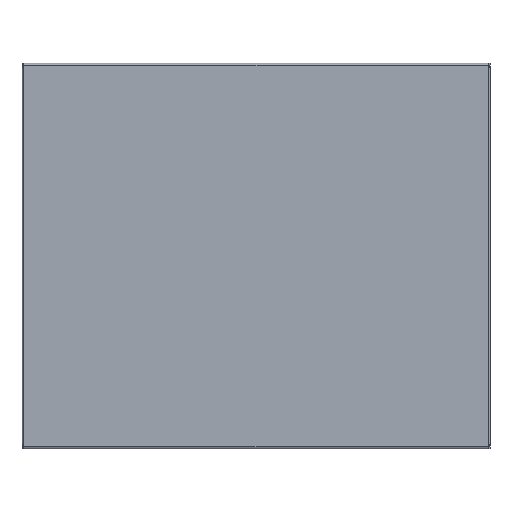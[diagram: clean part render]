
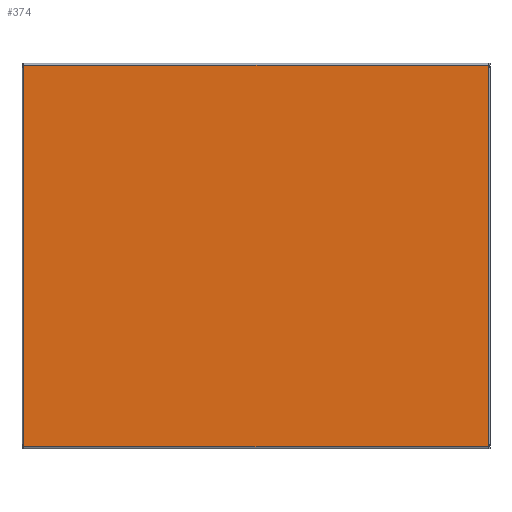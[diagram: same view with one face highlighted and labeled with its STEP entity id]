
A CAD part, front view. The second image highlights one B-rep face of the part: STEP entity #374.
In plain terms, the highlighted planar face has unit normal (0, -1, 0) as drawn and (0, 0, -1) by its records, which use the part's own axes.
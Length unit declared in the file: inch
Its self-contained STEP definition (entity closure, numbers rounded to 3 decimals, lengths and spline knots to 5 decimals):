
#303=CARTESIAN_POINT('',(-7.,-8.5,0.0));
#304=DIRECTION('',(0.0,0.0,1.0));
#305=DIRECTION('',(1.0,0.0,0.0));
#306=AXIS2_PLACEMENT_3D('',#303,#304,#305);
#307=PLANE('',#306);
#308=CARTESIAN_POINT('',(6.928,8.428,0.0));
#309=VERTEX_POINT('',#308);
#310=CARTESIAN_POINT('',(6.928,-8.428,0.0));
#311=VERTEX_POINT('',#310);
#312=CARTESIAN_POINT('',(6.928,8.428,0.0));
#313=DIRECTION('',(0.0,-1.0,0.0));
#314=VECTOR('',#313,16.856);
#315=LINE('',#312,#314);
#316=EDGE_CURVE('',#309,#311,#315,.T.);
#317=ORIENTED_EDGE('',*,*,#316,.T.);
#318=CARTESIAN_POINT('',(6.856,-8.428,0.0));
#319=VERTEX_POINT('',#318);
#320=CARTESIAN_POINT('',(6.928,-8.428,0.0));
#321=DIRECTION('',(-1.0,0.0,0.0));
#322=VECTOR('',#321,0.072);
#323=LINE('',#320,#322);
#324=EDGE_CURVE('',#311,#319,#323,.T.);
#325=ORIENTED_EDGE('',*,*,#324,.T.);
#326=CARTESIAN_POINT('',(-6.856,-8.428,0.0));
#327=VERTEX_POINT('',#326);
#328=CARTESIAN_POINT('',(6.856,-8.428,0.0));
#329=DIRECTION('',(-1.0,0.0,0.0));
#330=VECTOR('',#329,13.712);
#331=LINE('',#328,#330);
#332=EDGE_CURVE('',#319,#327,#331,.T.);
#333=ORIENTED_EDGE('',*,*,#332,.T.);
#334=CARTESIAN_POINT('',(-6.928,-8.428,0.0));
#335=VERTEX_POINT('',#334);
#336=CARTESIAN_POINT('',(-6.856,-8.428,0.0));
#337=DIRECTION('',(-1.0,0.0,0.0));
#338=VECTOR('',#337,0.072);
#339=LINE('',#336,#338);
#340=EDGE_CURVE('',#327,#335,#339,.T.);
#341=ORIENTED_EDGE('',*,*,#340,.T.);
#342=CARTESIAN_POINT('',(-6.928,8.428,0.0));
#343=VERTEX_POINT('',#342);
#344=CARTESIAN_POINT('',(-6.928,-8.428,0.0));
#345=DIRECTION('',(0.0,1.0,0.0));
#346=VECTOR('',#345,16.856);
#347=LINE('',#344,#346);
#348=EDGE_CURVE('',#335,#343,#347,.T.);
#349=ORIENTED_EDGE('',*,*,#348,.T.);
#350=CARTESIAN_POINT('',(-6.856,8.428,0.0));
#351=VERTEX_POINT('',#350);
#352=CARTESIAN_POINT('',(-6.928,8.428,0.0));
#353=DIRECTION('',(1.0,0.0,0.0));
#354=VECTOR('',#353,0.072);
#355=LINE('',#352,#354);
#356=EDGE_CURVE('',#343,#351,#355,.T.);
#357=ORIENTED_EDGE('',*,*,#356,.T.);
#358=CARTESIAN_POINT('',(6.856,8.428,0.0));
#359=VERTEX_POINT('',#358);
#360=CARTESIAN_POINT('',(-6.856,8.428,0.0));
#361=DIRECTION('',(1.0,0.0,0.0));
#362=VECTOR('',#361,13.712);
#363=LINE('',#360,#362);
#364=EDGE_CURVE('',#351,#359,#363,.T.);
#365=ORIENTED_EDGE('',*,*,#364,.T.);
#366=CARTESIAN_POINT('',(6.856,8.428,0.0));
#367=DIRECTION('',(1.0,0.0,0.0));
#368=VECTOR('',#367,0.072);
#369=LINE('',#366,#368);
#370=EDGE_CURVE('',#359,#309,#369,.T.);
#371=ORIENTED_EDGE('',*,*,#370,.T.);
#372=EDGE_LOOP('',(#317,#325,#333,#341,#349,#357,#365,#371));
#373=FACE_OUTER_BOUND('',#372,.T.);
#374=ADVANCED_FACE('',(#373),#307,.F.);
